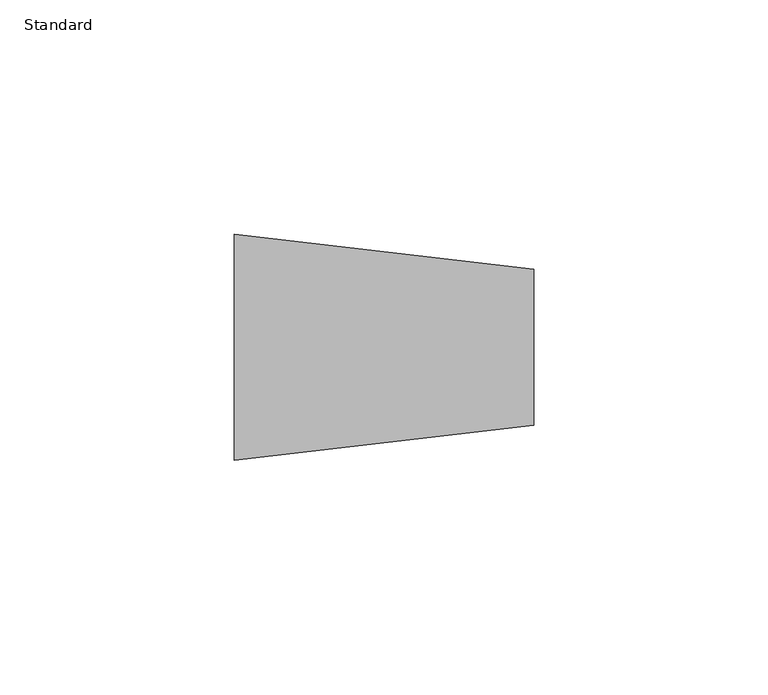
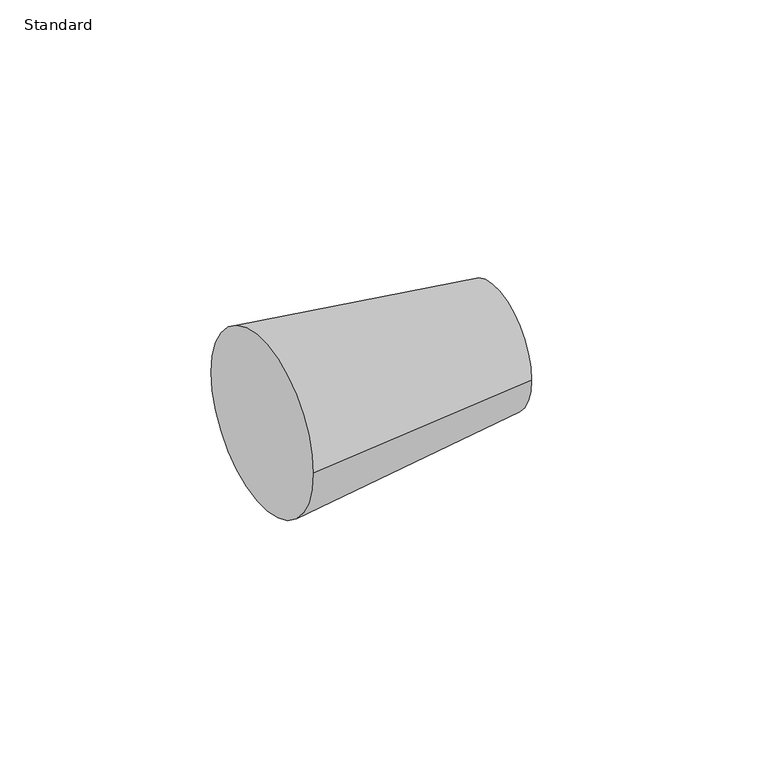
"""IFC4 building model written with IfcOpenShell, lengths in millimetres: pipe fitting geometry, Transformation - Générique : Standard."""

from ifc_helpers import new_model, si_unit, frame, origin, place, context, project, spatial, polyline, circle_curve, source, transform, mapped, element, save
from ifc_brep_helpers import plane_surface, revolved_surface, advanced_brep


def standard_dbcc9d22(model_context):
    return source(origin(), model_context, "Body", "AdvancedBrep", [
        advanced_brep(
        [(64.0, -16.7, 0.0), (64.0, 16.7, 0.0), (0.0, -24.15, 0.0), (0.0, 24.15, 0.0)],
        [
            (0, 1, circle_curve(frame((64.0, 0.0, 0.0), z_axis=(1.0, 0.0, 0.0), x_axis=(0.0, -1.0, 0.0)), 16.7)),
            (1, 0, circle_curve(frame((64.0, 0.0, 0.0), z_axis=(1.0, 0.0, 0.0), x_axis=(0.0, 1.0, 0.0)), 16.7)),
            (2, 3, circle_curve(frame((0.0, 0.0, 0.0), z_axis=(-1.0, 0.0, 0.0), x_axis=(0.0, 1.0, 0.0)), 24.15)),
            (3, 2, circle_curve(frame((0.0, 0.0, 0.0), z_axis=(-1.0, 0.0, 0.0), x_axis=(0.0, -1.0, 0.0)), 24.15)),
            (3, 1),
            (0, 2),
        ],
        [
            plane_surface(frame((64.0, 0.0, 0.0), z_axis=(1.0, 0.0, 0.0), x_axis=(0.0, 0.0, -1.0))),
            plane_surface(frame((0.0, 0.0, 0.0), z_axis=(-1.0, 0.0, 0.0), x_axis=(0.0, 0.0, -1.0))),
            revolved_surface(polyline([(64.0, -16.69999999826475, 0.0), (0.0, -24.15, 0.0)]), (207.4630872, 0.0, 0.0), (-1.0, 0.0, 0.0)),
            revolved_surface(polyline([(64.0, 16.69999999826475, 0.0), (0.0, 24.15, 0.0)]), (207.4630872, 0.0, 0.0), (-1.0, 0.0, 0.0)),
        ],
        [
            (0, [[1, 2]]),
            (1, [[3, 4]]),
            (2, [[-4, 5, -1, 6]]),
            (3, [[-3, -6, -2, -5]]),
        ],
    ),
    ])


if __name__ == "__main__":
    model = new_model("IFC4")
    model_context = context("Model", 3, world=origin())
    ifc_project = project(units=[si_unit("LENGTHUNIT", "METRE", prefix="MILLI")], contexts=[model_context])
    site = spatial("IfcSite", under=ifc_project)
    building = spatial("IfcBuilding", under=site)
    placement = place(None, origin())
    standard_shape = standard_dbcc9d22(model_context)
    element("IfcPipeFitting", 1, ObjectType="Transformation - Générique : Standard", at=placement, inside=building, context=model_context, shape_type="MappedRepresentation", body=[
        mapped(standard_shape, transform((0.0, 0.0, 0.0), x_axis=(1.0, 0.0, 0.0), y_axis=(0.0, 1.0, 0.0), z_axis=(0.0, 0.0, 1.0))),
    ])
    save(model, "model.ifc")
